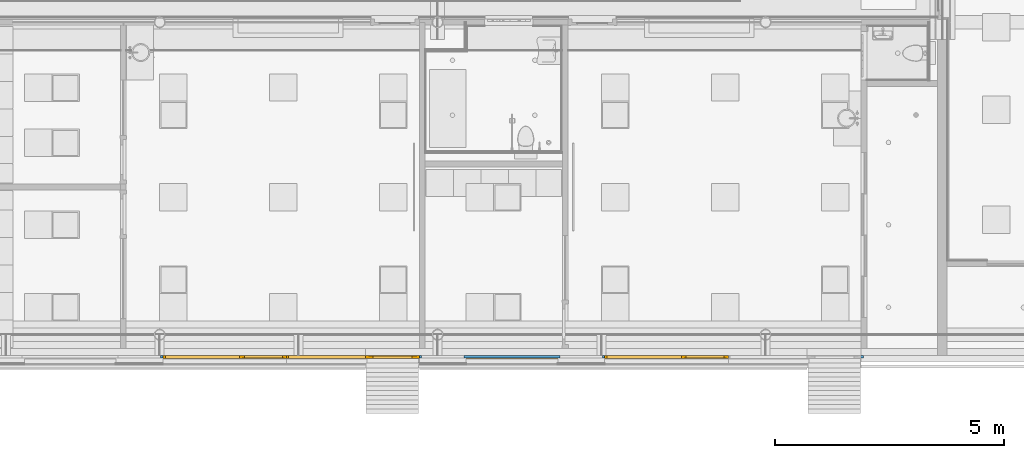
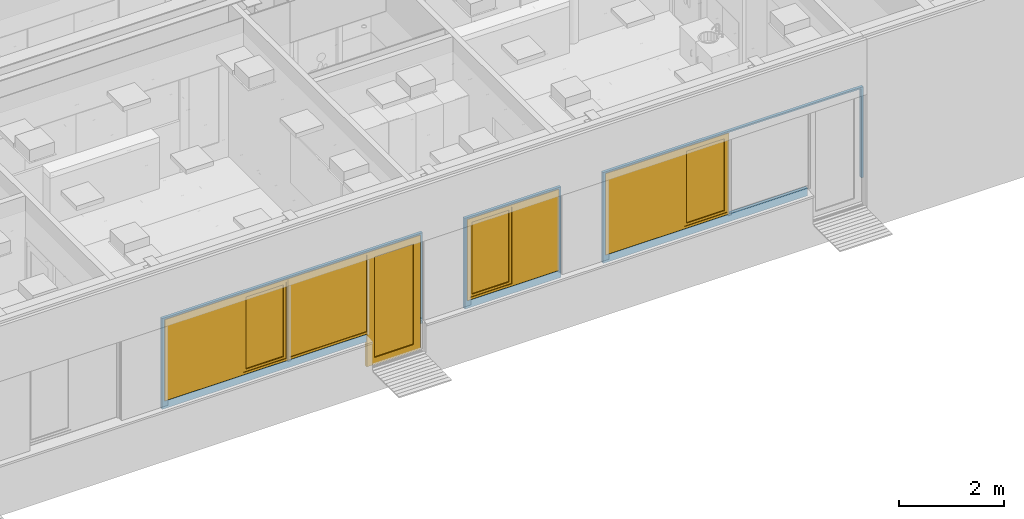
# One storey, part 3 of 347: 3 members, 3 windows, 1 door, 5 openings.
"""IFC2X3 building model written with IfcOpenShell, lengths in millimetres."""

from ifc_helpers import new_model, entity, si_unit, converted_unit, derived_unit, money_unit, direction, frame, origin_with_axes, place, context, subcontext, project, spatial, open_shell, faceted_brep, surface_model, source, transform, mapped, material, type_object, type_shapes, element, fill, save


model = new_model("IFC2X3")

# Units and contexts
model_context = context("Model", 3, precision=0.01, world=origin_with_axes(), true_north=direction((0.0, 1.0)))
plan_context = context("Plan", 3, precision=0.01, world=origin_with_axes(), true_north=direction((0.0, 1.0)))
body_context = subcontext(model_context, "Body", "Model", "MODEL_VIEW")
ifc_project = project(units=[si_unit("LENGTHUNIT", "METRE", prefix="MILLI"), si_unit("AREAUNIT", "SQUARE_METRE"), si_unit("VOLUMEUNIT", "CUBIC_METRE"), converted_unit("PLANEANGLEUNIT", "DEGREE", entity("IfcPlaneAngleMeasure", 0.0174532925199), si_unit("PLANEANGLEUNIT", "RADIAN"), dimensions=[0, 0, 0, 0, 0, 0, 0]), money_unit("EUR"), converted_unit("TIMEUNIT", "Year", entity("IfcTimeMeasure", 31556926.0), si_unit("TIMEUNIT", "SECOND"), dimensions=[0, 0, 1, 0, 0, 0, 0]), si_unit("MASSUNIT", "GRAM", prefix="KILO"), si_unit("THERMODYNAMICTEMPERATUREUNIT", "DEGREE_CELSIUS"), si_unit("LUMINOUSINTENSITYUNIT", "LUMEN"), si_unit("ENERGYUNIT", "JOULE", prefix="MEGA"), derived_unit("THERMALCONDUCTANCEUNIT", [(si_unit("POWERUNIT", "WATT"), 1), (si_unit("LENGTHUNIT", "METRE"), -1), (si_unit("THERMODYNAMICTEMPERATUREUNIT", "KELVIN"), -1)]), derived_unit("SPECIFICHEATCAPACITYUNIT", [(si_unit("ENERGYUNIT", "JOULE"), 1), (si_unit("MASSUNIT", "GRAM", prefix="KILO"), -1), (si_unit("THERMODYNAMICTEMPERATUREUNIT", "KELVIN"), -1)]), derived_unit("MASSDENSITYUNIT", [(si_unit("MASSUNIT", "GRAM", prefix="KILO"), 1), (si_unit("VOLUMEUNIT", "CUBIC_METRE"), -1)])], contexts=[model_context, plan_context])

# Site, building, storey
site_placement = place(None, origin_with_axes())
site = spatial("IfcSite", under=ifc_project, at=site_placement, Name="Site", CompositionType="ELEMENT")
building_placement = place(site_placement, origin_with_axes())
building = spatial("IfcBuilding", under=site, at=building_placement, Name="Naam gebouw", CompositionType="ELEMENT")
storey_placement = place(building_placement, origin_with_axes())
storey = spatial("IfcBuildingStorey", under=building, at=storey_placement, Name="begane grond", CompositionType="ELEMENT", Elevation=0.0)

# Member, openings, window, door
ifc_material = material(Name="31 pui/kozijn")
member_type = type_object("IfcMemberType", Name="31 pui/kozijn 62", PredefinedType="MEMBER")
member_1_placement = place(storey_placement, frame((24225.0, 4850.00002799, 535.00000231), z_axis=(0.0, 0.0, 1.0), x_axis=(-1.0, 0.0, 0.0)))
member_1 = element("IfcMember", 1, at=member_1_placement, inside=storey, type_object=member_type, material=ifc_material, Name="21_31 buitenkozijn pui", ObjectType="MEMBER", context=body_context, shape_type="Brep", body=[
    faceted_brep([(50.0, 0.0, 2064.99999769), (2950.0, 0.0, 2064.99999769), (5650.0, 0.0, 2064.99999769), (5650.0, 0.0, 184.99999769), (2950.0, 0.0, 184.99999769), (1227.0, 0.0, 184.99999769), (1227.0, 0.0, 0.0), (5700.0, 0.0, 0.0), (5700.0, 0.0, 2100.0), (0.0, 0.0, 2100.0), (0.0, 0.0, 0.0), (50.0, 0.0, 0.0), (50.0, 62.0, 2064.99999769), (2950.0, 62.0, 2064.99999769), (5650.0, 62.0, 2064.99999769), (5650.0, 62.0, 184.99999769), (2950.0, 62.0, 184.99999769), (1227.0, 62.0, 184.99999769), (1227.0, 62.0, 0.0), (5700.0, 62.0, 0.0), (5700.0, 62.0, 2100.0), (0.0, 62.0, 2100.0), (0.0, 62.0, 0.0), (50.0, 62.0, 0.0)], [[[0, 1, 2, 3, 4, 5, 6, 7, 8, 9, 10, 11]], [[1, 0, 12, 13, 14, 2]], [[2, 14, 15, 3]], [[16, 17, 5, 4, 3, 15]], [[6, 5, 17, 18]], [[6, 18, 19, 7]], [[20, 8, 7, 19]], [[20, 21, 9, 8]], [[10, 9, 21, 22]], [[23, 11, 10, 22]], [[0, 11, 23, 12]], [[12, 23, 22, 21, 20, 19, 18, 17, 16, 15, 14, 13]]]),
])
opening_1_placement = place(member_1_placement, frame((4300.0, 0.0, 184.99999769), z_axis=(0.0, 0.0, 1.0), x_axis=(1.0, 0.0, 0.0)))
opening_1 = element("IfcOpeningElement", 2, at=opening_1_placement, cuts=member_1, Name="31_merk-AC1", context=body_context, shape_type="Brep", body=[
    faceted_brep([(-1350.0, -62.0, 0.0), (-1350.0, -62.0, 1880.0), (-1350.0, 134.0, 1880.0), (-1350.0, 134.0, 0.0), (1350.0, -62.0, 0.0), (1350.0, -62.0, 1880.0), (1350.0, 134.0, 1880.0), (1350.0, 134.0, 0.0)], [[[0, 1, 2, 3]], [[0, 4, 5, 1]], [[1, 5, 6, 2]], [[3, 2, 6, 7]], [[4, 0, 3, 7]], [[5, 4, 7, 6]]]),
])
opening_2_placement = place(member_1_placement, frame((1500.0, 0.0, -575.00000231), z_axis=(0.0, 0.0, 1.0), x_axis=(1.0, 0.0, 0.0)))
opening_2 = element("IfcOpeningElement", 3, at=opening_2_placement, cuts=member_1, Name="32_merk-AC2", context=body_context, shape_type="Brep", body=[
    faceted_brep([(1450.0, 134.0, 760.000007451), (1450.0, 134.0, 2640.0), (1450.0, -62.0, 2640.0), (1450.0, -62.0, 760.000007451), (-273.000017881, 134.0, 760.000007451), (-273.000017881, 134.0, -1.49011645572e-06), (-1450.0, 134.0, -1.49011645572e-06), (-1450.0, 134.0, 2640.0), (-1450.0, -62.0, 2640.0), (-1450.0, -62.0, -1.49011646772e-06), (-273.000017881, -62.0, -1.49011646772e-06), (-273.000017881, -62.0, 760.000007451)], [[[0, 1, 2, 3]], [[0, 4, 5, 6, 7, 1]], [[1, 7, 8, 2]], [[3, 2, 8, 9, 10, 11]], [[4, 0, 3, 11]], [[5, 4, 11, 10]], [[6, 5, 10, 9]], [[7, 6, 9, 8]]]),
])
window_style_1 = type_object("IfcWindowStyle", Name="Rmeerkeuze 25", ConstructionType="NOTDEFINED", OperationType="DOUBLE_PANEL_VERTICAL", ParameterTakesPrecedence=False, Sizeable=False)
shared_shape_1 = source(origin_with_axes(), body_context, "Body", "SurfaceModel", [
    faceted_brep([(1311.0, -62.0, 1826.0), (1311.0, -72.0, 1826.0), (1350.0, -72.0, 1826.0), (1350.0, 0.0, 1826.0), (1326.0, 0.0, 1826.0), (1326.0, -62.0, 1826.0), (1311.0, -62.0, 54.0), (1311.0, -72.0, 54.0), (1350.0, -72.0, 54.0), (1350.0, 0.0, 54.0), (1326.0, 0.0, 54.0), (1326.0, -62.0, 54.0)], [[[0, 1, 2, 3, 4, 5]], [[6, 7, 1, 0]], [[8, 2, 1, 7]], [[9, 3, 2, 8]], [[4, 3, 9, 10]], [[10, 11, 5, 4]], [[5, 11, 6, 0]], [[11, 10, 9, 8, 7, 6]]]),
    faceted_brep([(362.0, 0.0, 1826.0), (323.0, 0.0, 1826.0), (323.0, -72.0, 1826.0), (377.0, -72.0, 1826.0), (377.0, -62.0, 1826.0), (362.0, -62.0, 1826.0), (362.0, 0.0, 54.0), (323.0, 0.0, 54.0), (323.0, -72.0, 54.0), (377.0, -72.0, 54.0), (377.0, -62.0, 54.0), (362.0, -62.0, 54.0)], [[[0, 1, 2, 3, 4, 5]], [[6, 7, 1, 0]], [[1, 7, 8, 2]], [[9, 3, 2, 8]], [[4, 3, 9, 10]], [[10, 11, 5, 4]], [[5, 11, 6, 0]], [[11, 10, 9, 8, 7, 6]]]),
    faceted_brep([(1311.0, -62.0, 54.0), (1311.0, -72.0, 54.0), (1350.0, -72.0, 54.0), (1350.0, 0.0, 54.0), (1326.0, 0.0, 54.0), (1326.0, -62.0, 54.0), (377.0, -62.0, 54.0), (377.0, -72.0, 54.0), (-1350.0, -72.0, 54.0), (-1350.0, -72.0, 0.0), (1350.0, -72.0, 0.0), (323.0, -72.0, 54.0), (-1296.0, -72.0, 54.0), (1350.0, 0.0, 0.0), (362.0, 0.0, 39.0), (1326.0, 0.0, 39.0), (-1350.0, 0.0, 0.0), (-1350.0, 0.0, 54.0), (-1296.0, 0.0, 54.0), (323.0, 0.0, 54.0), (362.0, 0.0, 54.0), (1326.0, -62.0, 39.0), (362.0, -62.0, 39.0), (362.0, -62.0, 54.0)], [[[0, 1, 2, 3, 4, 5]], [[6, 7, 1, 0]], [[8, 9, 10, 2, 1, 7, 11, 12]], [[13, 3, 2, 10]], [[14, 15, 4, 3, 13, 16, 17, 18, 19, 20]], [[15, 21, 5, 4]], [[5, 21, 22, 23, 6, 0]], [[23, 20, 19, 11, 7, 6]], [[17, 16, 9, 8]], [[16, 13, 10, 9]], [[19, 18, 12, 11]], [[18, 17, 8, 12]], [[14, 22, 21, 15]], [[23, 22, 14, 20]]]),
    faceted_brep([(362.0, 0.0, 1826.0), (323.0, 0.0, 1826.0), (-1296.0, 0.0, 1826.0), (-1350.0, 0.0, 1826.0), (-1350.0, 0.0, 1880.0), (1350.0, 0.0, 1880.0), (1350.0, 0.0, 1826.0), (1326.0, 0.0, 1826.0), (1326.0, 0.0, 1841.0), (362.0, 0.0, 1841.0), (362.0, -62.0, 1826.0), (377.0, -62.0, 1826.0), (377.0, -72.0, 1826.0), (323.0, -72.0, 1826.0), (-1296.0, -72.0, 1826.0), (-1350.0, -72.0, 1826.0), (-1350.0, -72.0, 1880.0), (1350.0, -72.0, 1880.0), (1350.0, -72.0, 1826.0), (1326.0, -62.0, 1826.0), (1311.0, -72.0, 1826.0), (1311.0, -62.0, 1826.0), (1326.0, -62.0, 1841.0), (362.0, -62.0, 1841.0)], [[[0, 1, 2, 3, 4, 5, 6, 7, 8, 9]], [[10, 11, 12, 13, 1, 0]], [[2, 1, 13, 14]], [[3, 2, 14, 15]], [[4, 3, 15, 16]], [[5, 4, 16, 17]], [[6, 5, 17, 18]], [[19, 7, 6, 18, 20, 21]], [[7, 19, 22, 8]], [[8, 22, 23, 9]], [[9, 23, 10, 0]], [[21, 11, 10, 23, 22, 19]], [[21, 20, 12, 11]], [[12, 20, 18, 17, 16, 15, 14, 13]]]),
    faceted_brep([(-1296.0, -72.0, 1826.0), (-1296.0, 0.0, 1826.0), (-1350.0, 0.0, 1826.0), (-1350.0, -72.0, 1826.0), (-1296.0, -72.0, 54.0), (-1296.0, 0.0, 54.0), (-1350.0, 0.0, 54.0), (-1350.0, -72.0, 54.0)], [[[0, 1, 2, 3]], [[4, 5, 1, 0]], [[1, 5, 6, 2]], [[3, 2, 6, 7]], [[0, 3, 7, 4]], [[7, 6, 5, 4]]]),
    surface_model("IfcShellBasedSurfaceModel", [(-1296.0, -72.0, 54.0), (323.0, -72.0, 54.0), (323.0, -72.0, 1826.0), (-1296.0, -72.0, 1826.0)], [open_shell([[[0, 1, 2, 3]]])]),
    surface_model("IfcShellBasedSurfaceModel", [(-1296.0, -52.0, 54.0), (-1296.0, -52.0, 1826.0), (323.0, -52.0, 1826.0), (323.0, -52.0, 54.0)], [open_shell([[[0, 1, 2, 3]]])]),
    faceted_brep([(430.0, -62.0, 1773.0), (430.0, 0.0, 1773.0), (362.0, 0.0, 1773.0), (362.0, -62.0, 1773.0), (430.0, -62.0, 107.0), (430.0, 0.0, 107.0), (362.0, 0.0, 107.0), (362.0, -62.0, 107.0)], [[[0, 1, 2, 3]], [[4, 5, 1, 0]], [[1, 5, 6, 2]], [[3, 2, 6, 7]], [[0, 3, 7, 4]], [[7, 6, 5, 4]]]),
    faceted_brep([(1258.0, -62.0, 107.0), (1258.0, 0.0, 107.0), (1326.0, 0.0, 107.0), (1326.0, -62.0, 107.0), (1258.0, -62.0, 1773.0), (1258.0, 0.0, 1773.0), (1326.0, 0.0, 1773.0), (1326.0, -62.0, 1773.0)], [[[0, 1, 2, 3]], [[4, 5, 1, 0]], [[1, 5, 6, 2]], [[3, 2, 6, 7]], [[0, 3, 7, 4]], [[7, 6, 5, 4]]]),
    faceted_brep([(1326.0, -62.0, 39.0), (1326.0, 0.0, 39.0), (1326.0, 0.0, 107.0), (1326.0, -62.0, 107.0), (362.0, -62.0, 39.0), (362.0, 0.0, 39.0), (362.0, 0.0, 107.0), (430.0, 0.0, 107.0), (1258.0, 0.0, 107.0), (1258.0, -62.0, 107.0), (430.0, -62.0, 107.0), (362.0, -62.0, 107.0)], [[[0, 1, 2, 3]], [[4, 5, 1, 0]], [[1, 5, 6, 7, 8, 2]], [[3, 2, 8, 9]], [[0, 3, 9, 10, 11, 4]], [[11, 6, 5, 4]], [[10, 7, 6, 11]], [[9, 8, 7, 10]]]),
    faceted_brep([(362.0, -62.0, 1841.0), (362.0, 0.0, 1841.0), (362.0, 0.0, 1773.0), (362.0, -62.0, 1773.0), (1326.0, -62.0, 1841.0), (1326.0, 0.0, 1841.0), (1326.0, 0.0, 1773.0), (1258.0, 0.0, 1773.0), (430.0, 0.0, 1773.0), (430.0, -62.0, 1773.0), (1258.0, -62.0, 1773.0), (1326.0, -62.0, 1773.0)], [[[0, 1, 2, 3]], [[4, 5, 1, 0]], [[1, 5, 6, 7, 8, 2]], [[3, 2, 8, 9]], [[0, 3, 9, 10, 11, 4]], [[11, 6, 5, 4]], [[10, 7, 6, 11]], [[9, 8, 7, 10]]]),
    surface_model("IfcShellBasedSurfaceModel", [(430.0, -41.0, 107.0), (1258.0, -41.0, 107.0), (1258.0, -41.0, 1773.0), (430.0, -41.0, 1773.0)], [open_shell([[[0, 1, 2, 3]]])]),
    surface_model("IfcShellBasedSurfaceModel", [(430.0, -21.0, 107.0), (430.0, -21.0, 1773.0), (1258.0, -21.0, 1773.0), (1258.0, -21.0, 107.0)], [open_shell([[[0, 1, 2, 3]]])]),
])
type_shapes(window_style_1, [shared_shape_1])
window_1_placement = place(opening_1_placement, frame((1350.0, 0.0, 0.0), z_axis=(0.0, 0.0, 1.0), x_axis=(-1.0, 0.0, 0.0)))
window_1 = element("IfcWindow", 4, at=window_1_placement, inside=storey, type_object=window_style_1, Name="31_merk-AC1", ObjectType="WINDOW", OverallHeight=1880.0, OverallWidth=2700.0, context=body_context, shape_type="MappedRepresentation", body=[
    mapped(shared_shape_1, transform((1350.0, 0.0, 0.0))),
])
fill(opening_1, window_1)
door_style = type_object("IfcDoorStyle", Name="D1 zl1-b 25", ConstructionType="NOTDEFINED", OperationType="SINGLE_SWING_LEFT", ParameterTakesPrecedence=False, Sizeable=False)
shared_shape_2 = source(origin_with_axes(), body_context, "Body", "SurfaceModel", [
    faceted_brep([(-1396.0, 0.0, 0.0), (-341.0, 0.0, 0.0), (-341.0, -72.0, 0.0), (-1396.0, -72.0, 0.0), (-1396.0, 0.0, 48.0), (-341.0, 0.0, 48.0), (-341.0, -72.0, 48.0), (-1396.0, -72.0, 48.0)], [[[0, 1, 2, 3]], [[4, 5, 1, 0]], [[1, 5, 6, 2]], [[3, 2, 6, 7]], [[0, 3, 7, 4]], [[7, 6, 5, 4]]]),
    faceted_brep([(1450.0, 0.0, 760.0), (1450.0, -72.0, 760.0), (1411.0, -72.0, 760.0), (1411.0, 0.0, 760.0), (1450.0, 0.0, 2586.0), (1450.0, -72.0, 2586.0), (1411.0, -72.0, 2586.0), (1411.0, -72.0, 814.0), (1411.0, 0.0, 814.0), (1411.0, 0.0, 2586.0)], [[[0, 1, 2, 3]], [[4, 5, 1, 0]], [[1, 5, 6, 7, 2]], [[3, 2, 7, 8]], [[0, 3, 8, 9, 4]], [[9, 6, 5, 4]], [[8, 7, 6, 9]]]),
    faceted_brep([(-273.0, 0.0, 2586.0), (-273.0, -72.0, 2586.0), (-273.0, -72.0, 814.0), (-273.0, 0.0, 814.0), (-341.0, 0.0, 2586.0), (-341.0, -72.0, 2586.0), (-341.0, -72.0, 0.0), (-273.0, -72.0, 0.0), (-273.0, -72.0, 760.0), (-273.0, 0.0, 760.0), (-273.0, 0.0, 0.0), (-341.0, 0.0, 0.0)], [[[0, 1, 2, 3]], [[4, 5, 1, 0]], [[1, 5, 6, 7, 8, 2]], [[3, 2, 8, 9]], [[0, 3, 9, 10, 11, 4]], [[11, 6, 5, 4]], [[10, 7, 6, 11]], [[9, 8, 7, 10]]]),
    faceted_brep([(1411.0, 0.0, 814.0), (1411.0, -72.0, 814.0), (1411.0, -72.0, 760.0), (1411.0, 0.0, 760.0), (-273.0, 0.0, 814.0), (-273.0, -72.0, 814.0), (-273.0, -72.0, 760.0), (-273.0, 0.0, 760.0)], [[[0, 1, 2, 3]], [[4, 5, 1, 0]], [[1, 5, 6, 2]], [[3, 2, 6, 7]], [[0, 3, 7, 4]], [[7, 6, 5, 4]]]),
    faceted_brep([(-1450.0, 0.0, 0.0), (-1450.0, -72.0, 0.0), (-1450.0, -72.0, 2586.0), (-1450.0, 0.0, 2586.0), (-1396.0, 0.0, 0.0), (-1396.0, -72.0, 0.0), (-1396.0, -72.0, 2586.0), (-1396.0, 0.0, 2586.0)], [[[0, 1, 2, 3]], [[4, 5, 1, 0]], [[1, 5, 6, 2]], [[3, 2, 6, 7]], [[0, 3, 7, 4]], [[7, 6, 5, 4]]]),
    faceted_brep([(1450.0, 0.0, 2640.0), (1450.0, -72.0, 2640.0), (1450.0, -72.0, 2586.0), (1450.0, 0.0, 2586.0), (-1450.0, 0.0, 2640.0), (-1450.0, -72.0, 2640.0), (-1450.0, -72.0, 2586.0), (-1396.0, -72.0, 2586.0), (-341.0, -72.0, 2586.0), (-273.0, -72.0, 2586.0), (1411.0, -72.0, 2586.0), (1411.0, 0.0, 2586.0), (-273.0, 0.0, 2586.0), (-341.0, 0.0, 2586.0), (-1396.0, 0.0, 2586.0), (-1450.0, 0.0, 2586.0)], [[[0, 1, 2, 3]], [[4, 5, 1, 0]], [[1, 5, 6, 7, 8, 9, 10, 2]], [[3, 2, 10, 11]], [[0, 3, 11, 12, 13, 14, 15, 4]], [[15, 6, 5, 4]], [[14, 7, 6, 15]], [[13, 8, 7, 14]], [[12, 9, 8, 13]], [[11, 10, 9, 12]]]),
    faceted_brep([(-1396.0, 0.0, 158.0), (-1296.0, 0.0, 158.0), (-1296.0, -62.0, 158.0), (-1396.0, -62.0, 158.0), (-1396.0, 0.0, 2486.0), (-1296.0, 0.0, 2486.0), (-1296.0, -62.0, 2486.0), (-1396.0, -62.0, 2486.0)], [[[0, 1, 2, 3]], [[0, 4, 5, 1]], [[1, 5, 6, 2]], [[3, 2, 6, 7]], [[4, 0, 3, 7]], [[5, 4, 7, 6]]]),
    faceted_brep([(-341.0, 0.0, 158.0), (-341.0, 0.0, 2486.0), (-341.0, -62.0, 2486.0), (-341.0, -62.0, 158.0), (-441.0, 0.0, 158.0), (-441.0, 0.0, 2486.0), (-441.0, -62.0, 2486.0), (-441.0, -62.0, 158.0)], [[[0, 1, 2, 3]], [[0, 4, 5, 1]], [[1, 5, 6, 2]], [[3, 2, 6, 7]], [[4, 0, 3, 7]], [[5, 4, 7, 6]]]),
    faceted_brep([(-1396.0, 0.0, 48.0), (-341.0, 0.0, 48.0), (-341.0, -62.0, 48.0), (-1396.0, -62.0, 48.0), (-1396.0, 0.0, 158.0), (-1296.0, 0.0, 158.0), (-441.0, 0.0, 158.0), (-341.0, 0.0, 158.0), (-341.0, -62.0, 158.0), (-441.0, -62.0, 158.0), (-1296.0, -62.0, 158.0), (-1396.0, -62.0, 158.0)], [[[0, 1, 2, 3]], [[0, 4, 5, 6, 7, 1]], [[1, 7, 8, 2]], [[3, 2, 8, 9, 10, 11]], [[4, 0, 3, 11]], [[5, 4, 11, 10]], [[6, 5, 10, 9]], [[7, 6, 9, 8]]]),
    faceted_brep([(-1396.0, 0.0, 2586.0), (-1396.0, 0.0, 2486.0), (-1396.0, -62.0, 2486.0), (-1396.0, -62.0, 2586.0), (-341.0, 0.0, 2586.0), (-341.0, 0.0, 2486.0), (-441.0, 0.0, 2486.0), (-1296.0, 0.0, 2486.0), (-1296.0, -62.0, 2486.0), (-441.0, -62.0, 2486.0), (-341.0, -62.0, 2486.0), (-341.0, -62.0, 2586.0)], [[[0, 1, 2, 3]], [[0, 4, 5, 6, 7, 1]], [[1, 7, 8, 2]], [[3, 2, 8, 9, 10, 11]], [[4, 0, 3, 11]], [[5, 4, 11, 10]], [[6, 5, 10, 9]], [[7, 6, 9, 8]]]),
    surface_model("IfcShellBasedSurfaceModel", [(-1296.0, -25.0, 158.0), (-1296.0, -25.0, 2486.0), (-441.0, -25.0, 2486.0), (-441.0, -25.0, 158.0)], [open_shell([[[0, 1, 2, 3]]])]),
    surface_model("IfcShellBasedSurfaceModel", [(-1296.0, -37.0, 158.0), (-441.0, -37.0, 158.0), (-441.0, -37.0, 2486.0), (-1296.0, -37.0, 2486.0)], [open_shell([[[0, 1, 2, 3]]])]),
    surface_model("IfcShellBasedSurfaceModel", [(1411.0, -12.0, 814.0), (-273.0, -12.0, 814.0), (-273.0, -12.0, 2586.0), (1411.0, -12.0, 2586.0)], [open_shell([[[0, 1, 2, 3]]])]),
    surface_model("IfcShellBasedSurfaceModel", [(1411.0, -24.0, 814.0), (1411.0, -24.0, 2586.0), (-273.0, -24.0, 2586.0), (-273.0, -24.0, 814.0)], [open_shell([[[0, 1, 2, 3]]])]),
])
type_shapes(door_style, [shared_shape_2])
door_placement = place(opening_2_placement, frame((-1450.0, 0.0, 0.0), z_axis=(0.0, 0.0, 1.0), x_axis=(1.0, 0.0, 0.0)))
door = element("IfcDoor", 5, at=door_placement, inside=storey, type_object=door_style, Name="32_merk-AC2", ObjectType="DOOR", OverallHeight=2640.0, OverallWidth=2900.0, context=body_context, shape_type="MappedRepresentation", body=[
    mapped(shared_shape_2, transform((1450.0, 72.0, 0.0))),
])
fill(opening_2, door)

# Member, openings, window
member_2_placement = place(storey_placement, frame((33875.0, 4850.00002055, 535.00000231), z_axis=(0.0, 0.0, 1.0), x_axis=(-1.0, 0.0, 0.0)))
member_2 = element("IfcMember", 6, at=member_2_placement, inside=storey, type_object=member_type, material=ifc_material, Name="21_31 buitenkozijn pui", ObjectType="MEMBER", context=body_context, shape_type="Brep", body=[
    faceted_brep([(50.0, 0.0, 2064.99999769), (2950.0, 0.0, 2064.99999769), (5650.0, 0.0, 2064.99999769), (5650.0, 0.0, 184.99999769), (2950.0, 0.0, 184.99999769), (1227.0, 0.0, 184.99999769), (1227.0, 0.0, 0.0), (5700.0, 0.0, 0.0), (5700.0, 0.0, 2100.0), (0.0, 0.0, 2100.0), (0.0, 0.0, 0.0), (50.0, 0.0, 0.0), (50.0, 62.0, 2064.99999769), (2950.0, 62.0, 2064.99999769), (5650.0, 62.0, 2064.99999769), (5650.0, 62.0, 184.99999769), (2950.0, 62.0, 184.99999769), (1227.0, 62.0, 184.99999769), (1227.0, 62.0, 0.0), (5700.0, 62.0, 0.0), (5700.0, 62.0, 2100.0), (0.0, 62.0, 2100.0), (0.0, 62.0, 0.0), (50.0, 62.0, 0.0)], [[[0, 1, 2, 3, 4, 5, 6, 7, 8, 9, 10, 11]], [[1, 0, 12, 13, 14, 2]], [[2, 14, 15, 3]], [[16, 17, 5, 4, 3, 15]], [[6, 5, 17, 18]], [[6, 18, 19, 7]], [[20, 8, 7, 19]], [[20, 21, 9, 8]], [[10, 9, 21, 22]], [[23, 11, 10, 22]], [[0, 11, 23, 12]], [[12, 23, 22, 21, 20, 19, 18, 17, 16, 15, 14, 13]]]),
])
opening_3_placement = place(member_2_placement, frame((4300.0, 0.0, 184.99999769), z_axis=(0.0, 0.0, 1.0), x_axis=(1.0, 0.0, 0.0)))
opening_3 = element("IfcOpeningElement", 7, at=opening_3_placement, cuts=member_2, Name="31_merk-AC1", context=body_context, shape_type="Brep", body=[
    faceted_brep([(-1350.0, -62.0, 0.0), (-1350.0, -62.0, 1880.0), (-1350.0, 134.0, 1880.0), (-1350.0, 134.0, 0.0), (1350.0, -62.0, 0.0), (1350.0, -62.0, 1880.0), (1350.0, 134.0, 1880.0), (1350.0, 134.0, 0.0)], [[[0, 1, 2, 3]], [[0, 4, 5, 1]], [[1, 5, 6, 2]], [[3, 2, 6, 7]], [[4, 0, 3, 7]], [[5, 4, 7, 6]]]),
])
opening_4_placement = place(member_2_placement, frame((1500.0, 0.0, -575.00000231), z_axis=(0.0, 0.0, 1.0), x_axis=(1.0, 0.0, 0.0)))
element("IfcOpeningElement", 8, at=opening_4_placement, cuts=member_2, Name="32_merk-AC2", context=body_context, shape_type="Brep", body=[
    faceted_brep([(1450.0, 134.0, 760.000007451), (1450.0, 134.0, 2640.0), (1450.0, -62.0, 2640.0), (1450.0, -62.0, 760.000007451), (-273.000017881, 134.0, 760.000007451), (-273.000017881, 134.0, -1.49011956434e-06), (-1450.0, 134.0, -1.49011956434e-06), (-1450.0, 134.0, 2640.0), (-1450.0, -62.0, 2640.0), (-1450.0, -62.0, -1.49011957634e-06), (-273.000017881, -62.0, -1.49011957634e-06), (-273.000017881, -62.0, 760.000007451)], [[[0, 1, 2, 3]], [[0, 4, 5, 6, 7, 1]], [[1, 7, 8, 2]], [[3, 2, 8, 9, 10, 11]], [[4, 0, 3, 11]], [[5, 4, 11, 10]], [[6, 5, 10, 9]], [[7, 6, 9, 8]]]),
])
window_2_placement = place(opening_3_placement, frame((1350.0, 0.0, 0.0), z_axis=(0.0, 0.0, 1.0), x_axis=(-1.0, 0.0, 0.0)))
window_2 = element("IfcWindow", 9, at=window_2_placement, inside=storey, type_object=window_style_1, Name="31_merk-AC1", ObjectType="WINDOW", OverallHeight=1880.0, OverallWidth=2700.0, context=body_context, shape_type="MappedRepresentation", body=[
    mapped(shared_shape_1, transform((1350.0, 0.0, 0.0))),
])
fill(opening_3, window_2)

# Member, opening, window
member_3_placement = place(storey_placement, frame((27249.9986432, 4850.0, 535.00000231), z_axis=(0.0, 0.0, 1.0), x_axis=(-1.0, 0.0, 0.0)))
member_3 = element("IfcMember", 10, at=member_3_placement, inside=storey, type_object=member_type, material=ifc_material, Name="21_31 buitenkozijn pui", ObjectType="MEMBER", context=body_context, shape_type="Brep", body=[
    faceted_brep([(2100.0, 62.0, 2100.0), (2100.0, 62.0, 0.0), (0.0, 62.0, 0.0), (0.0, 62.0, 2100.0), (2049.99728633, 62.0, 184.99999769), (2049.99728633, 62.0, 2064.99999769), (49.9972863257, 62.0, 2064.99999769), (49.9972863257, 62.0, 184.99999769), (2100.0, 0.0, 2100.0), (2100.0, 0.0, 0.0), (0.0, 0.0, 0.0), (0.0, 0.0, 2100.0), (2049.99728633, 0.0, 184.99999769), (2049.99728633, 0.0, 2064.99999769), (49.9972863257, 0.0, 2064.99999769), (49.9972863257, 0.0, 184.99999769)], [[[0, 1, 2, 3], [4, 5, 6, 7]], [[1, 0, 8, 9]], [[1, 9, 10, 2]], [[2, 10, 11, 3]], [[8, 0, 3, 11]], [[12, 13, 5, 4]], [[13, 14, 6, 5]], [[14, 15, 7, 6]], [[15, 12, 4, 7]], [[9, 8, 11, 10], [12, 15, 14, 13]]]),
])
opening_5_placement = place(member_3_placement, frame((1049.99728633, 0.0, 184.99999769), z_axis=(0.0, 0.0, 1.0), x_axis=(1.0, 0.0, 0.0)))
opening_5 = element("IfcOpeningElement", 11, at=opening_5_placement, cuts=member_3, Name="31_merk-AG", context=body_context, shape_type="Brep", body=[
    faceted_brep([(1000.0, 134.0, 0.0), (1000.0, 134.0, 1880.0), (1000.0, -62.0, 1880.0), (1000.0, -62.0, 0.0), (-1000.0, 134.0, 0.0), (-1000.0, 134.0, 1880.0), (-1000.0, -62.0, 1880.0), (-1000.0, -62.0, 0.0)], [[[0, 1, 2, 3]], [[0, 4, 5, 1]], [[1, 5, 6, 2]], [[3, 2, 6, 7]], [[4, 0, 3, 7]], [[5, 4, 7, 6]]]),
])
window_style_2 = type_object("IfcWindowStyle", Name="Rmeerkeuze 25", ConstructionType="NOTDEFINED", OperationType="DOUBLE_PANEL_VERTICAL", ParameterTakesPrecedence=False, Sizeable=False)
shared_shape_3 = source(origin_with_axes(), body_context, "Body", "SurfaceModel", [
    faceted_brep([(-946.0, -62.0, 1826.0), (-961.0, -62.0, 1826.0), (-961.0, 0.0, 1826.0), (-1000.0, 0.0, 1826.0), (-1000.0, -72.0, 1826.0), (-946.0, -72.0, 1826.0), (-946.0, -62.0, 54.0), (-961.0, -62.0, 54.0), (-961.0, 0.0, 54.0), (-1000.0, 0.0, 54.0), (-1000.0, -72.0, 54.0), (-946.0, -72.0, 54.0)], [[[0, 1, 2, 3, 4, 5]], [[1, 0, 6, 7]], [[8, 2, 1, 7]], [[2, 8, 9, 3]], [[9, 10, 4, 3]], [[10, 11, 5, 4]], [[6, 0, 5, 11]], [[7, 6, 11, 10, 9, 8]]]),
    faceted_brep([(-12.0, 0.0, 1826.0), (-12.0, -62.0, 1826.0), (-27.0, -62.0, 1826.0), (-27.0, -72.0, 1826.0), (27.0, -72.0, 1826.0), (27.0, 0.0, 1826.0), (-12.0, 0.0, 54.0), (-12.0, -62.0, 54.0), (-27.0, -62.0, 54.0), (-27.0, -72.0, 54.0), (27.0, -72.0, 54.0), (27.0, 0.0, 54.0)], [[[0, 1, 2, 3, 4, 5]], [[1, 0, 6, 7]], [[8, 2, 1, 7]], [[2, 8, 9, 3]], [[9, 10, 4, 3]], [[5, 4, 10, 11]], [[6, 0, 5, 11]], [[7, 6, 11, 10, 9, 8]]]),
    faceted_brep([(-946.0, -62.0, 54.0), (-961.0, -62.0, 54.0), (-961.0, 0.0, 54.0), (-1000.0, 0.0, 54.0), (-1000.0, -72.0, 54.0), (-946.0, -72.0, 54.0), (-27.0, -62.0, 54.0), (-12.0, -62.0, 54.0), (-12.0, -62.0, 39.0), (-961.0, -62.0, 39.0), (-961.0, 0.0, 39.0), (-12.0, 0.0, 39.0), (-12.0, 0.0, 54.0), (27.0, 0.0, 54.0), (946.0, 0.0, 54.0), (1000.0, 0.0, 54.0), (1000.0, 0.0, 0.0), (-1000.0, 0.0, 0.0), (-1000.0, -72.0, 0.0), (1000.0, -72.0, 54.0), (946.0, -72.0, 54.0), (27.0, -72.0, 54.0), (-27.0, -72.0, 54.0), (1000.0, -72.0, 0.0)], [[[0, 1, 2, 3, 4, 5]], [[1, 0, 6, 7, 8, 9]], [[10, 2, 1, 9]], [[11, 12, 13, 14, 15, 16, 17, 3, 2, 10]], [[17, 18, 4, 3]], [[19, 20, 21, 22, 5, 4, 18, 23]], [[6, 0, 5, 22]], [[7, 6, 22, 21, 13, 12]], [[7, 12, 11, 8]], [[11, 10, 9, 8]], [[13, 21, 20, 14]], [[14, 20, 19, 15]], [[15, 19, 23, 16]], [[16, 23, 18, 17]]]),
    faceted_brep([(-12.0, 0.0, 1826.0), (-12.0, 0.0, 1841.0), (-961.0, 0.0, 1841.0), (-961.0, 0.0, 1826.0), (-1000.0, 0.0, 1826.0), (-1000.0, 0.0, 1880.0), (1000.0, 0.0, 1880.0), (1000.0, 0.0, 1826.0), (946.0, 0.0, 1826.0), (27.0, 0.0, 1826.0), (-12.0, -62.0, 1826.0), (-12.0, -62.0, 1841.0), (-961.0, -62.0, 1841.0), (-961.0, -62.0, 1826.0), (-946.0, -62.0, 1826.0), (-946.0, -72.0, 1826.0), (-1000.0, -72.0, 1826.0), (-1000.0, -72.0, 1880.0), (1000.0, -72.0, 1880.0), (1000.0, -72.0, 1826.0), (946.0, -72.0, 1826.0), (27.0, -72.0, 1826.0), (-27.0, -72.0, 1826.0), (-27.0, -62.0, 1826.0)], [[[0, 1, 2, 3, 4, 5, 6, 7, 8, 9]], [[1, 0, 10, 11]], [[2, 1, 11, 12]], [[3, 2, 12, 13]], [[13, 14, 15, 16, 4, 3]], [[4, 16, 17, 5]], [[5, 17, 18, 6]], [[6, 18, 19, 7]], [[7, 19, 20, 8]], [[8, 20, 21, 9]], [[10, 0, 9, 21, 22, 23]], [[14, 13, 12, 11, 10, 23]], [[14, 23, 22, 15]], [[22, 21, 20, 19, 18, 17, 16, 15]]]),
    faceted_brep([(946.0, -72.0, 1826.0), (1000.0, -72.0, 1826.0), (1000.0, 0.0, 1826.0), (946.0, 0.0, 1826.0), (946.0, -72.0, 54.0), (1000.0, -72.0, 54.0), (1000.0, 0.0, 54.0), (946.0, 0.0, 54.0)], [[[0, 1, 2, 3]], [[0, 4, 5, 1]], [[1, 5, 6, 2]], [[3, 2, 6, 7]], [[4, 0, 3, 7]], [[5, 4, 7, 6]]]),
    surface_model("IfcShellBasedSurfaceModel", [(946.0, -72.0, 54.0), (946.0, -72.0, 1826.0), (27.0, -72.0, 1826.0), (27.0, -72.0, 54.0)], [open_shell([[[0, 1, 2, 3]]])]),
    surface_model("IfcShellBasedSurfaceModel", [(946.0, -52.0, 54.0), (27.0, -52.0, 54.0), (27.0, -52.0, 1826.0), (946.0, -52.0, 1826.0)], [open_shell([[[0, 1, 2, 3]]])]),
    faceted_brep([(-80.0, -62.0, 1773.0), (-12.0, -62.0, 1773.0), (-12.0, 0.0, 1773.0), (-80.0, 0.0, 1773.0), (-80.0, -62.0, 107.0), (-12.0, -62.0, 107.0), (-12.0, 0.0, 107.0), (-80.0, 0.0, 107.0)], [[[0, 1, 2, 3]], [[0, 4, 5, 1]], [[1, 5, 6, 2]], [[3, 2, 6, 7]], [[4, 0, 3, 7]], [[5, 4, 7, 6]]]),
    faceted_brep([(-893.0, -62.0, 107.0), (-961.0, -62.0, 107.0), (-961.0, 0.0, 107.0), (-893.0, 0.0, 107.0), (-893.0, -62.0, 1773.0), (-961.0, -62.0, 1773.0), (-961.0, 0.0, 1773.0), (-893.0, 0.0, 1773.0)], [[[0, 1, 2, 3]], [[0, 4, 5, 1]], [[1, 5, 6, 2]], [[3, 2, 6, 7]], [[4, 0, 3, 7]], [[5, 4, 7, 6]]]),
    faceted_brep([(-961.0, -62.0, 39.0), (-961.0, -62.0, 107.0), (-961.0, 0.0, 107.0), (-961.0, 0.0, 39.0), (-12.0, -62.0, 39.0), (-12.0, -62.0, 107.0), (-80.0, -62.0, 107.0), (-893.0, -62.0, 107.0), (-893.0, 0.0, 107.0), (-80.0, 0.0, 107.0), (-12.0, 0.0, 107.0), (-12.0, 0.0, 39.0)], [[[0, 1, 2, 3]], [[0, 4, 5, 6, 7, 1]], [[1, 7, 8, 2]], [[3, 2, 8, 9, 10, 11]], [[4, 0, 3, 11]], [[5, 4, 11, 10]], [[6, 5, 10, 9]], [[7, 6, 9, 8]]]),
    faceted_brep([(-12.0, -62.0, 1841.0), (-12.0, -62.0, 1773.0), (-12.0, 0.0, 1773.0), (-12.0, 0.0, 1841.0), (-961.0, -62.0, 1841.0), (-961.0, -62.0, 1773.0), (-893.0, -62.0, 1773.0), (-80.0, -62.0, 1773.0), (-80.0, 0.0, 1773.0), (-893.0, 0.0, 1773.0), (-961.0, 0.0, 1773.0), (-961.0, 0.0, 1841.0)], [[[0, 1, 2, 3]], [[0, 4, 5, 6, 7, 1]], [[1, 7, 8, 2]], [[3, 2, 8, 9, 10, 11]], [[4, 0, 3, 11]], [[5, 4, 11, 10]], [[6, 5, 10, 9]], [[7, 6, 9, 8]]]),
    surface_model("IfcShellBasedSurfaceModel", [(-80.0, -41.0, 107.0), (-80.0, -41.0, 1773.0), (-893.0, -41.0, 1773.0), (-893.0, -41.0, 107.0)], [open_shell([[[0, 1, 2, 3]]])]),
    surface_model("IfcShellBasedSurfaceModel", [(-80.0, -21.0, 107.0), (-893.0, -21.0, 107.0), (-893.0, -21.0, 1773.0), (-80.0, -21.0, 1773.0)], [open_shell([[[0, 1, 2, 3]]])]),
])
type_shapes(window_style_2, [shared_shape_3])
window_3_placement = place(opening_5_placement, frame((1000.0, 0.0, 0.0), z_axis=(0.0, 0.0, 1.0), x_axis=(-1.0, 0.0, 0.0)))
window_3 = element("IfcWindow", 12, at=window_3_placement, inside=storey, type_object=window_style_2, Name="31_merk-AG", ObjectType="WINDOW", OverallHeight=1880.0, OverallWidth=2000.0, context=body_context, shape_type="MappedRepresentation", body=[
    mapped(shared_shape_3, transform((1000.0, 0.0, 0.0))),
])
fill(opening_5, window_3)

save(model, "model.ifc")
